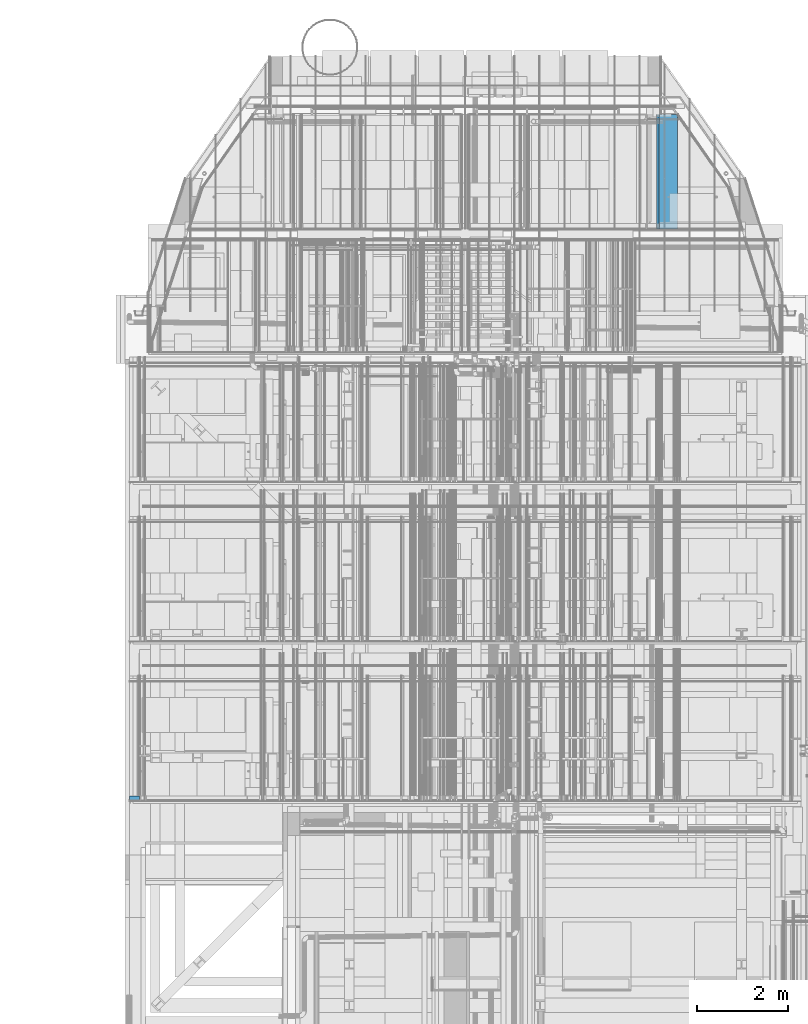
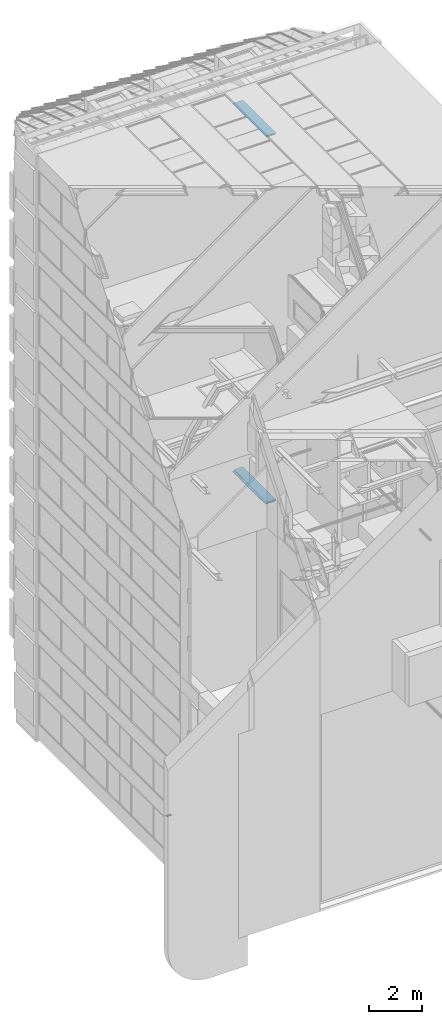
# One storey, part 169 of 583: 5 building element parts, 3 elements without a shape of their own.
"""IFC2X3 building model written with IfcOpenShell, lengths in metres."""

from ifc_helpers import new_model, entity, si_unit, converted_unit, derived_unit, money_unit, direction, frame, origin_with_axes, place, context, subcontext, project, spatial, polyline, outline, extrude, material, type_object, element, aggregate, save


model = new_model("IFC2X3")

# Units and contexts
model_context = context("Model", 3, precision=1e-05, world=origin_with_axes(), true_north=direction((0.0, 1.0)))
body_context = subcontext(model_context, "Body", "Model", "MODEL_VIEW", scale=1.0)
ifc_project = project(units=[si_unit("LENGTHUNIT", "METRE"), si_unit("AREAUNIT", "SQUARE_METRE"), si_unit("VOLUMEUNIT", "CUBIC_METRE"), si_unit("ABSORBEDDOSEUNIT", "GRAY"), si_unit("AMOUNTOFSUBSTANCEUNIT", "MOLE"), si_unit("DOSEEQUIVALENTUNIT", "SIEVERT"), si_unit("ELECTRICCAPACITANCEUNIT", "FARAD"), si_unit("ELECTRICCHARGEUNIT", "COULOMB"), si_unit("ELECTRICCONDUCTANCEUNIT", "SIEMENS"), si_unit("ELECTRICCURRENTUNIT", "AMPERE"), si_unit("ELECTRICRESISTANCEUNIT", "OHM"), si_unit("ELECTRICVOLTAGEUNIT", "VOLT"), si_unit("ENERGYUNIT", "JOULE"), si_unit("FORCEUNIT", "NEWTON"), si_unit("FREQUENCYUNIT", "HERTZ"), si_unit("ILLUMINANCEUNIT", "LUX"), si_unit("INDUCTANCEUNIT", "HENRY"), si_unit("LUMINOUSFLUXUNIT", "LUMEN"), si_unit("LUMINOUSINTENSITYUNIT", "CANDELA"), si_unit("MAGNETICFLUXDENSITYUNIT", "TESLA"), si_unit("MAGNETICFLUXUNIT", "WEBER"), si_unit("MASSUNIT", "GRAM"), converted_unit("PLANEANGLEUNIT", "degree", entity("IfcReal", 0.0174532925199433), si_unit("PLANEANGLEUNIT", "RADIAN"), dimensions=[0, 0, 0, 0, 0, 0, 0]), si_unit("POWERUNIT", "WATT"), si_unit("PRESSUREUNIT", "PASCAL"), si_unit("RADIOACTIVITYUNIT", "BECQUEREL"), si_unit("SOLIDANGLEUNIT", "STERADIAN"), si_unit("THERMODYNAMICTEMPERATUREUNIT", "KELVIN"), si_unit("TIMEUNIT", "SECOND"), derived_unit("ACCELERATIONUNIT", [(si_unit("LENGTHUNIT", "METRE"), 1), (si_unit("TIMEUNIT", "SECOND"), -2)]), derived_unit("ANGULARVELOCITYUNIT", [(converted_unit("PLANEANGLEUNIT", "degree", entity("IfcReal", 0.0174532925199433), si_unit("PLANEANGLEUNIT", "RADIAN"), dimensions=[0, 0, 0, 0, 0, 0, 0]), 1), (si_unit("TIMEUNIT", "SECOND"), -1)]), derived_unit("CURVATUREUNIT", [(converted_unit("PLANEANGLEUNIT", "degree", entity("IfcReal", 0.0174532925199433), si_unit("PLANEANGLEUNIT", "RADIAN"), dimensions=[0, 0, 0, 0, 0, 0, 0]), 1), (si_unit("LENGTHUNIT", "METRE"), -1)]), derived_unit("DYNAMICVISCOSITYUNIT", [(si_unit("PRESSUREUNIT", "PASCAL"), 1), (si_unit("TIMEUNIT", "SECOND"), 1)]), derived_unit("HEATFLUXDENSITYUNIT", [(si_unit("POWERUNIT", "WATT"), 1), (si_unit("LENGTHUNIT", "METRE"), -2)]), derived_unit("HEATINGVALUEUNIT", [(si_unit("ENERGYUNIT", "JOULE"), 1), (si_unit("MASSUNIT", "GRAM"), -1)]), derived_unit("INTEGERCOUNTRATEUNIT", [(si_unit("TIMEUNIT", "SECOND"), -1)]), derived_unit("IONCONCENTRATIONUNIT", [(si_unit("MASSUNIT", "GRAM"), 1), (si_unit("VOLUMEUNIT", "CUBIC_METRE"), -1)]), derived_unit("ISOTHERMALMOISTURECAPACITYUNIT", [(si_unit("VOLUMEUNIT", "CUBIC_METRE"), 1), (si_unit("MASSUNIT", "GRAM"), -1)]), derived_unit("KINEMATICVISCOSITYUNIT", [(si_unit("AREAUNIT", "SQUARE_METRE"), 1), (si_unit("TIMEUNIT", "SECOND"), -1)]), derived_unit("LINEARFORCEUNIT", [(si_unit("FORCEUNIT", "NEWTON"), 1), (si_unit("LENGTHUNIT", "METRE"), -1)]), derived_unit("LINEARMOMENTUNIT", [(si_unit("FORCEUNIT", "NEWTON"), 1), (si_unit("LENGTHUNIT", "METRE"), -1)]), derived_unit("LINEARSTIFFNESSUNIT", [(si_unit("FORCEUNIT", "NEWTON"), 1), (si_unit("LENGTHUNIT", "METRE"), -1)]), derived_unit("LINEARVELOCITYUNIT", [(si_unit("LENGTHUNIT", "METRE"), 1), (si_unit("TIMEUNIT", "SECOND"), -1)]), derived_unit("LUMINOUSINTENSITYDISTRIBUTIONUNIT", [(si_unit("LUMINOUSINTENSITYUNIT", "CANDELA"), 1), (si_unit("LUMINOUSFLUXUNIT", "LUMEN"), -1)]), derived_unit("MASSDENSITYUNIT", [(si_unit("MASSUNIT", "GRAM"), 1), (si_unit("VOLUMEUNIT", "CUBIC_METRE"), -1)]), derived_unit("MASSFLOWRATEUNIT", [(si_unit("MASSUNIT", "GRAM"), 1), (si_unit("TIMEUNIT", "SECOND"), -1)]), derived_unit("MASSPERLENGTHUNIT", [(si_unit("MASSUNIT", "GRAM"), 1), (si_unit("LENGTHUNIT", "METRE"), -1)]), derived_unit("MODULUSOFELASTICITYUNIT", [(si_unit("FORCEUNIT", "NEWTON"), 1), (si_unit("AREAUNIT", "SQUARE_METRE"), -1)]), derived_unit("MODULUSOFLINEARSUBGRADEREACTIONUNIT", [(si_unit("FORCEUNIT", "NEWTON"), 1), (si_unit("LENGTHUNIT", "METRE"), -2)]), derived_unit("MODULUSOFROTATIONALSUBGRADEREACTIONUNIT", [(si_unit("FORCEUNIT", "NEWTON"), 1), (si_unit("LENGTHUNIT", "METRE"), 1)]), derived_unit("MODULUSOFSUBGRADEREACTIONUNIT", [(si_unit("FORCEUNIT", "NEWTON"), 1), (si_unit("VOLUMEUNIT", "CUBIC_METRE"), -1)]), derived_unit("MOISTUREDIFFUSIVITYUNIT", [(si_unit("VOLUMEUNIT", "CUBIC_METRE"), 1), (si_unit("TIMEUNIT", "SECOND"), -1)]), derived_unit("MOLECULARWEIGHTUNIT", [(si_unit("MASSUNIT", "GRAM"), 1), (si_unit("AMOUNTOFSUBSTANCEUNIT", "MOLE"), -1)]), derived_unit("PLANARFORCEUNIT", [(si_unit("FORCEUNIT", "NEWTON"), 1), (si_unit("LENGTHUNIT", "METRE"), -2)]), derived_unit("ROTATIONALFREQUENCYUNIT", [(si_unit("TIMEUNIT", "SECOND"), -1)]), derived_unit("ROTATIONALMASSUNIT", [(si_unit("MASSUNIT", "GRAM"), 1), (si_unit("LENGTHUNIT", "METRE"), 2)]), derived_unit("ROTATIONALSTIFFNESSUNIT", [(si_unit("FORCEUNIT", "NEWTON"), 1), (si_unit("LENGTHUNIT", "METRE"), 1), (converted_unit("PLANEANGLEUNIT", "degree", entity("IfcReal", 0.0174532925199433), si_unit("PLANEANGLEUNIT", "RADIAN"), dimensions=[0, 0, 0, 0, 0, 0, 0]), -1)]), derived_unit("SECTIONAREAINTEGRALUNIT", [(si_unit("LENGTHUNIT", "METRE"), 5)]), derived_unit("SECTIONMODULUSUNIT", [(si_unit("LENGTHUNIT", "METRE"), 3)]), derived_unit("SHEARMODULUSUNIT", [(si_unit("FORCEUNIT", "NEWTON"), 1), (si_unit("AREAUNIT", "SQUARE_METRE"), -1)]), derived_unit("SOUNDPOWERUNIT", [(si_unit("ENERGYUNIT", "JOULE"), 1), (si_unit("TIMEUNIT", "SECOND"), -1)]), derived_unit("SPECIFICHEATCAPACITYUNIT", [(si_unit("FORCEUNIT", "NEWTON"), 1), (si_unit("MASSUNIT", "GRAM"), -1), (si_unit("THERMODYNAMICTEMPERATUREUNIT", "KELVIN"), -1)]), derived_unit("TEMPERATUREGRADIENTUNIT", [(si_unit("THERMODYNAMICTEMPERATUREUNIT", "KELVIN"), 1), (si_unit("LENGTHUNIT", "METRE"), -1)]), derived_unit("THERMALADMITTANCEUNIT", [(si_unit("POWERUNIT", "WATT"), 1), (si_unit("AREAUNIT", "SQUARE_METRE"), -1), (si_unit("THERMODYNAMICTEMPERATUREUNIT", "KELVIN"), -1)]), derived_unit("THERMALCONDUCTANCEUNIT", [(si_unit("POWERUNIT", "WATT"), 1), (si_unit("LENGTHUNIT", "METRE"), -1), (si_unit("THERMODYNAMICTEMPERATUREUNIT", "KELVIN"), -1)]), derived_unit("THERMALEXPANSIONCOEFFICIENTUNIT", [(si_unit("THERMODYNAMICTEMPERATUREUNIT", "KELVIN"), -1)]), derived_unit("THERMALRESISTANCEUNIT", [(si_unit("AREAUNIT", "SQUARE_METRE"), 1), (si_unit("POWERUNIT", "WATT"), -1)]), derived_unit("THERMALTRANSMITTANCEUNIT", [(si_unit("POWERUNIT", "WATT"), 1), (si_unit("AREAUNIT", "SQUARE_METRE"), -1), (si_unit("THERMODYNAMICTEMPERATUREUNIT", "KELVIN"), -1)]), derived_unit("TORQUEUNIT", [(si_unit("FORCEUNIT", "NEWTON"), 1), (si_unit("LENGTHUNIT", "METRE"), 1)]), derived_unit("VAPORPERMEABILITYUNIT", [(si_unit("MASSUNIT", "GRAM"), 1), (si_unit("TIMEUNIT", "SECOND"), -1)]), derived_unit("VOLUMETRICFLOWRATEUNIT", [(si_unit("VOLUMEUNIT", "CUBIC_METRE"), 1), (si_unit("TIMEUNIT", "SECOND"), -1)]), derived_unit("WARPINGCONSTANTUNIT", [(si_unit("LENGTHUNIT", "METRE"), 6)]), derived_unit("WARPINGMOMENTUNIT", [(si_unit("FORCEUNIT", "NEWTON"), 1), (si_unit("LENGTHUNIT", "METRE"), 2)]), money_unit("GBP")], contexts=[model_context])

# Site, building, storey
site_placement = place(None, origin_with_axes())
site = spatial("IfcSite", under=ifc_project, at=site_placement, Name="Site", CompositionType="ELEMENT")
building_placement = place(site_placement, origin_with_axes())
building = spatial("IfcBuilding", under=site, at=building_placement, Name="Building01", CompositionType="ELEMENT")
storey_placement = place(building_placement, frame((0.0, 0.0, 20.78), z_axis=(0.0, 0.0, 1.0), x_axis=(1.0, 0.0, 0.0)))
storey = spatial("IfcBuildingStorey", under=building, at=storey_placement, Name="RL", CompositionType="ELEMENT", Elevation=20.78)

# Wall, building element part
wall_type_1 = type_object("IfcWallType", Name="SHE_A-Walls_Type06d_ExternalWallInsulation_48mm", PredefinedType="NOTDEFINED")
wall_1_placement = place(storey_placement, frame((0.1, 5.15, -18.537), z_axis=(0.0, 1.0, 0.0), x_axis=(1.0, 0.0, 0.0)))
wall_1 = element("IfcWall", 1, at=wall_1_placement, inside=storey, type_object=wall_type_1, Name="6D", ObjectType="SHE_A-Walls_Type06d_ExternalWallInsulation_48mm")
ifc_material_1 = material(Name="A_BSUK_Walls_Timber")
building_element_part_1_placement = place(wall_1_placement, origin_with_axes())
building_element_part_1 = element("IfcBuildingElementPart", 2, at=building_element_part_1_placement, material=ifc_material_1, Name="2", context=body_context, shape_type="SweptSolid", body=[
    extrude(outline(polyline([(0.233, 0.063), (0.0, 0.063), (0.0, 0.048), (0.218, 0.048), (0.233, 0.063)])), frame((0.0, 0.0, 0.015), z_axis=(0.0, 0.0, 1.0), x_axis=(1.0, 0.0, 0.0)), (0.0, 0.0, 1.0), 0.1),
])
aggregate(wall_1, [building_element_part_1])

# Wall, building element parts
wall_type_2 = type_object("IfcWallType", Name="SHE_A-Walls_Type06e_ExternalWallPenthouse_280mm", PredefinedType="NOTDEFINED")
wall_2_placement = place(storey_placement, frame((12.097195, 17.68, 1.224976), z_axis=(0.0, 1.0, 0.0), x_axis=(-1.0, 0.0, 0.0)))
wall_2 = element("IfcWall", 3, at=wall_2_placement, inside=storey, type_object=wall_type_2, Name="6E", ObjectType="SHE_A-Walls_Type06e_ExternalWallPenthouse_280mm")
placement_1 = place(wall_2_placement, origin_with_axes())
building_element_part_2 = element("IfcBuildingElementPart", 4, at=placement_1, material=ifc_material_1, Name="5", context=body_context, shape_type="SweptSolid", body=[
    extrude(outline(polyline([(0.462256, 0.0), (0.0, 0.0), (0.0, -0.01), (0.452256, -0.01), (0.462256, 0.0)])), origin_with_axes(), (0.0, 0.0, 1.0), 2.5),
])
ifc_material_2 = material(Name="A_BSUK_WallInternal_Finishes_Metal")
building_element_part_3 = element("IfcBuildingElementPart", 5, at=placement_1, material=ifc_material_2, Name="6", context=body_context, shape_type="SweptSolid", body=[
    extrude(outline(polyline([(0.402256, -0.06), (0.0, -0.06), (0.0, -0.065), (0.397256, -0.065), (0.402256, -0.06)])), origin_with_axes(), (0.0, 0.0, 1.0), 2.5),
])
aggregate(wall_2, [building_element_part_2, building_element_part_3])

wall_3_placement = place(storey_placement, frame((11.634939, 17.68, -15.784976), z_axis=(0.0, 1.0, 0.0), x_axis=(1.0, 0.0, 0.0)))
wall_3 = element("IfcWall", 6, at=wall_3_placement, inside=storey, type_object=wall_type_2, Name="6E", ObjectType="SHE_A-Walls_Type06e_ExternalWallPenthouse_280mm")
placement_2 = place(wall_3_placement, origin_with_axes())
building_element_part_4 = element("IfcBuildingElementPart", 7, at=placement_2, material=ifc_material_1, Name="5", context=body_context, shape_type="SweptSolid", body=[
    extrude(outline(polyline([(0.0, 0.0), (0.01, -0.01), (0.462256, -0.01), (0.462256, 0.0), (0.0, 0.0)])), origin_with_axes(), (0.0, 0.0, 1.0), 2.5),
])
building_element_part_5 = element("IfcBuildingElementPart", 8, at=placement_2, material=ifc_material_2, Name="6", context=body_context, shape_type="SweptSolid", body=[
    extrude(outline(polyline([(0.06, -0.06), (0.065, -0.065), (0.462256, -0.065), (0.462256, -0.06), (0.06, -0.06)])), origin_with_axes(), (0.0, 0.0, 1.0), 2.5),
])
aggregate(wall_3, [building_element_part_4, building_element_part_5])

save(model, "model.ifc")
